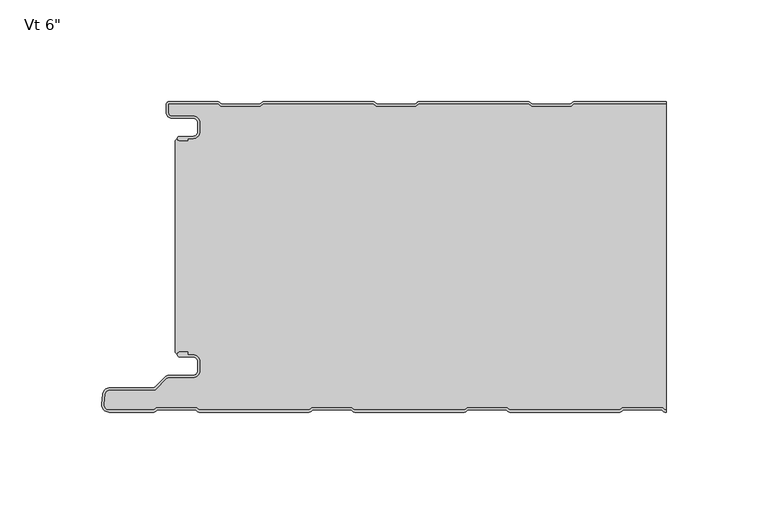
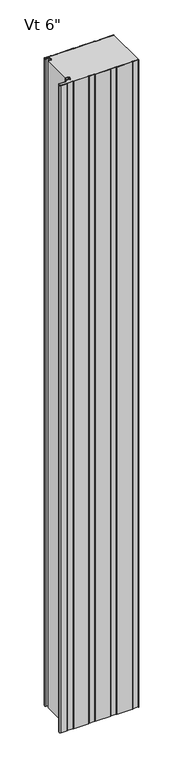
"""IFC4 building model written with IfcOpenShell, lengths in millimetres: plate geometry."""

from ifc_helpers import new_model, si_unit, point, frame, frame_2d, origin, origin_with_axes, place, context, project, spatial, polyline, circle_curve, trimmed, segment, composite_curve, outline, extrude, source, transform, mapped, element, save
from ifc_brep_helpers import plane_surface, cylinder_surface, revolved_surface, advanced_brep


def plate_e210ae97(model_context):
    return source(origin(), model_context, "Body", "SolidModel", [
        advanced_brep(
        [(-118.368691, -17.0015034, 2400.0), (-119.3686883, -18.0015065, 2400.0), (-118.368691, -19.0014978, 2400.0), (-114.3684874, -19.0014979, 2400.0), (-114.3684874, -18.0015034, 2400.0), (-111.6762776, -18.0015034, 2400.0), (-108.3762819, -14.7015077, 2400.0), (-108.3762819, -10.3015164, 2400.0), (-111.6762774, -7.001521, 2400.0), (-122.0962563, -7.001521, 2400.0), (-123.8662505, -5.2315268, 2400.0), (-123.8662505, -0.9999791, 2400.0), (-99.3659738, -0.9999791, 2400.0), (-97.9803312, -2.2002182, 2400.0), (-78.6051649, -2.2002182, 2400.0), (-77.219532, -0.9999874, 2400.0), (-23.1661166, -0.9999874, 2400.0), (-21.7804836, -2.2002182, 2400.0), (-2.4053173, -2.2002182, 2400.0), (-1.0196844, -0.9999874, 2400.0), (53.033731, -0.9999874, 2400.0), (54.419364, -2.2002182, 2400.0), (73.7945303, -2.2002182, 2400.0), (75.1801632, -0.9999874, 2400.0), (120.3999998, -0.9999874, 2400.0), (120.3999998, 1.26e-05, 2400.0), (75.3293144, 1.26e-05, 2400.0), (74.4126975, -0.3417759, 2400.0), (73.4216499, -1.2002182, 2400.0), (54.7922444, -1.2002182, 2400.0), (53.8011968, -0.3417759, 2400.0), (52.8845799, 1.26e-05, 2400.0), (-0.8705332, 1.26e-05, 2400.0), (-1.7871501, -0.3417759, 2400.0), (-2.7781977, -1.2002182, 2400.0), (-21.4076032, -1.2002182, 2400.0), (-22.3986508, -0.3417759, 2400.0), (-23.3152677, 1.26e-05, 2400.0), (-77.0703808, 1.26e-05, 2400.0), (-77.9869977, -0.3417759, 2400.0), (-78.9780453, -1.2002182, 2400.0), (-97.6074508, -1.2002182, 2400.0), (-98.5984984, -0.3417759, 2400.0), (-99.5152067, 1.26e-05, 2400.0), (-123.4662543, 2.09e-05, 2400.0), (-124.8662505, -1.3999752, 2400.0), (-124.8662505, -5.2315268, 2400.0), (-122.0962563, -8.001521, 2400.0), (-111.6762774, -8.001521, 2400.0), (-109.3762819, -10.3015164, 2400.0), (-109.3762819, -14.7015077, 2400.0), (-111.6762776, -17.0015034, 2400.0), (-118.368691, -17.0015034, 0.0), (-111.6762776, -17.0015034, 0.0), (-109.3762819, -14.7015077, 0.0), (-109.3762819, -10.3015164, 0.0), (-111.6762774, -8.001521, 0.0), (-122.0962563, -8.001521, 0.0), (-124.8662505, -5.2315268, 0.0), (-124.8662505, -1.3999752, 0.0), (-123.4662543, 2.09e-05, 0.0), (-99.5151153, 2.09e-05, 0.0), (-98.5984984, -0.3417759, 0.0), (-97.6074508, -1.2002182, 0.0), (-78.9780453, -1.2002182, 0.0), (-77.9869977, -0.3417759, 0.0), (-77.0703808, 1.26e-05, 0.0), (-23.3152677, 1.26e-05, 0.0), (-22.3986508, -0.3417759, 0.0), (-21.4076032, -1.2002182, 0.0), (-2.7781977, -1.2002182, 0.0), (-1.7871501, -0.3417759, 0.0), (-0.8705332, 1.26e-05, 0.0), (52.8845799, 1.26e-05, 0.0), (53.8011968, -0.3417759, 0.0), (54.7922444, -1.2002182, 0.0), (73.4216499, -1.2002182, 0.0), (74.4126975, -0.3417759, 0.0), (75.3293144, 1.26e-05, 0.0), (120.3999998, 1.26e-05, 0.0), (120.3999998, -0.9999874, 0.0), (75.1801632, -0.9999874, 0.0), (73.7945303, -2.2002182, 0.0), (54.419364, -2.2002182, 0.0), (53.033731, -0.9999874, 0.0), (-1.0196844, -0.9999874, 0.0), (-2.4053173, -2.2002182, 0.0), (-21.7804836, -2.2002182, 0.0), (-23.1661166, -0.9999874, 0.0), (-77.219532, -0.9999874, 0.0), (-78.6051649, -2.2002182, 0.0), (-97.9803312, -2.2002182, 0.0), (-99.3659738, -0.9999791, 0.0), (-123.8662505, -0.9999791, 0.0), (-123.8662505, -5.2315268, 0.0), (-122.0962563, -7.001521, 0.0), (-111.6762774, -7.001521, 0.0), (-108.3762819, -10.3015164, 0.0), (-108.3762819, -14.7015077, 0.0), (-111.6762776, -18.0015034, 0.0), (-114.3684874, -18.0015034, 0.0), (-114.3684874, -19.0014979, 0.0), (-118.368691, -19.0014979, 0.0), (-119.3686882, -18.0015065, 0.0)],
        [
            (0, 1, circle_curve(frame((-118.368691, -18.0015006, 2400.0), z_axis=(0.0, 0.0, 1.0), x_axis=(1.0, 0.0, 0.0)), 0.9999973)),
            (1, 2, circle_curve(frame((-118.368691, -18.0015006, 2400.0), z_axis=(0.0, 0.0, 1.0), x_axis=(1.0, 0.0, 0.0)), 0.9999972)),
            (2, 3),
            (3, 4),
            (4, 5),
            (5, 6, circle_curve(frame((-111.6762776, -14.7015077, 2400.0), z_axis=(0.0, 0.0, 1.0), x_axis=(1.0, 0.0, 0.0)), 3.2999957)),
            (6, 7),
            (7, 8, circle_curve(frame((-111.6762774, -10.3015164, 2400.0), z_axis=(0.0, 0.0, 1.0), x_axis=(1.0, 0.0, 0.0)), 3.2999955)),
            (8, 9),
            (9, 10, circle_curve(frame((-122.0962563, -5.2315268, 2400.0), z_axis=(0.0, 0.0, -1.0), x_axis=(1.0, 0.0, 0.0)), 1.7699942)),
            (10, 11),
            (11, 12),
            (12, 13),
            (13, 14),
            (14, 15),
            (15, 16),
            (16, 17),
            (17, 18),
            (18, 19),
            (19, 20),
            (20, 21),
            (21, 22),
            (22, 23),
            (23, 24),
            (24, 25),
            (25, 26),
            (26, 27, circle_curve(frame((75.3293144, -1.3999846, 2400.0), z_axis=(0.0, 0.0, 1.0), x_axis=(1.0, 0.0, 0.0)), 1.3999972)),
            (27, 28),
            (28, 29),
            (29, 30),
            (30, 31, circle_curve(frame((52.8845799, -1.3999846, 2400.0), z_axis=(0.0, 0.0, 1.0), x_axis=(1.0, 0.0, 0.0)), 1.3999972)),
            (31, 32),
            (32, 33, circle_curve(frame((-0.8705332, -1.3999846, 2400.0), z_axis=(0.0, 0.0, 1.0), x_axis=(1.0, 0.0, 0.0)), 1.3999972)),
            (33, 34),
            (34, 35),
            (35, 36),
            (36, 37, circle_curve(frame((-23.3152677, -1.3999846, 2400.0), z_axis=(0.0, 0.0, 1.0), x_axis=(1.0, 0.0, 0.0)), 1.3999972)),
            (37, 38),
            (38, 39, circle_curve(frame((-77.0703808, -1.3999846, 2400.0), z_axis=(0.0, 0.0, 1.0), x_axis=(1.0, 0.0, 0.0)), 1.3999972)),
            (39, 40),
            (40, 41),
            (41, 42),
            (42, 43, circle_curve(frame((-99.5151153, -1.3999846, 2400.0), z_axis=(0.0, 0.0, 1.0), x_axis=(1.0, 0.0, 0.0)), 1.3999972)),
            (43, 44),
            (44, 45, circle_curve(frame((-123.4662543, -1.3999752, 2400.0), z_axis=(0.0, 0.0, 1.0), x_axis=(1.0, 0.0, 0.0)), 1.3999962)),
            (45, 46),
            (46, 47, circle_curve(frame((-122.0962563, -5.2315268, 2400.0), z_axis=(0.0, 0.0, 1.0), x_axis=(1.0, 0.0, 0.0)), 2.7699942)),
            (47, 48),
            (48, 49, circle_curve(frame((-111.6762774, -10.3015164, 2400.0), z_axis=(0.0, 0.0, -1.0), x_axis=(1.0, 0.0, 0.0)), 2.2999955)),
            (49, 50),
            (50, 51, circle_curve(frame((-111.6762776, -14.7015077, 2400.0), z_axis=(0.0, 0.0, -1.0), x_axis=(1.0, 0.0, 0.0)), 2.2999957)),
            (51, 0),
            (52, 53),
            (53, 54, circle_curve(frame((-111.6762776, -14.7015077, 0.0), z_axis=(0.0, 0.0, 1.0), x_axis=(1.0, 0.0, 0.0)), 2.2999957)),
            (54, 55),
            (55, 56, circle_curve(frame((-111.6762774, -10.3015164, 0.0), z_axis=(0.0, 0.0, 1.0), x_axis=(1.0, 0.0, 0.0)), 2.2999955)),
            (56, 57),
            (57, 58, circle_curve(frame((-122.0962563, -5.2315268, 0.0), z_axis=(0.0, 0.0, -1.0), x_axis=(1.0, 0.0, 0.0)), 2.7699942)),
            (58, 59),
            (59, 60, circle_curve(frame((-123.4662543, -1.3999752, 0.0), z_axis=(0.0, 0.0, -1.0), x_axis=(1.0, 0.0, 0.0)), 1.3999962)),
            (60, 61),
            (61, 62, circle_curve(frame((-99.5151153, -1.3999846, 0.0), z_axis=(0.0, 0.0, -1.0), x_axis=(1.0, 0.0, 0.0)), 1.3999972)),
            (62, 63),
            (63, 64),
            (64, 65),
            (65, 66, circle_curve(frame((-77.0703808, -1.3999846, 0.0), z_axis=(0.0, 0.0, -1.0), x_axis=(1.0, 0.0, 0.0)), 1.3999972)),
            (66, 67),
            (67, 68, circle_curve(frame((-23.3152677, -1.3999846, 0.0), z_axis=(0.0, 0.0, -1.0), x_axis=(1.0, 0.0, 0.0)), 1.3999972)),
            (68, 69),
            (69, 70),
            (70, 71),
            (71, 72, circle_curve(frame((-0.8705332, -1.3999846, 0.0), z_axis=(0.0, 0.0, -1.0), x_axis=(1.0, 0.0, 0.0)), 1.3999972)),
            (72, 73),
            (73, 74, circle_curve(frame((52.8845799, -1.3999846, 0.0), z_axis=(0.0, 0.0, -1.0), x_axis=(1.0, 0.0, 0.0)), 1.3999972)),
            (74, 75),
            (75, 76),
            (76, 77),
            (77, 78, circle_curve(frame((75.3293144, -1.3999846, 0.0), z_axis=(0.0, 0.0, -1.0), x_axis=(1.0, 0.0, 0.0)), 1.3999972)),
            (78, 79),
            (79, 80),
            (80, 81),
            (81, 82),
            (82, 83),
            (83, 84),
            (84, 85),
            (85, 86),
            (86, 87),
            (87, 88),
            (88, 89),
            (89, 90),
            (90, 91),
            (91, 92),
            (92, 93),
            (93, 94),
            (94, 95, circle_curve(frame((-122.0962563, -5.2315268, 0.0), z_axis=(0.0, 0.0, 1.0), x_axis=(1.0, 0.0, 0.0)), 1.7699942)),
            (95, 96),
            (96, 97, circle_curve(frame((-111.6762774, -10.3015164, 0.0), z_axis=(0.0, 0.0, -1.0), x_axis=(1.0, 0.0, 0.0)), 3.2999955)),
            (97, 98),
            (98, 99, circle_curve(frame((-111.6762776, -14.7015077, 0.0), z_axis=(0.0, 0.0, -1.0), x_axis=(1.0, 0.0, 0.0)), 3.2999957)),
            (99, 100),
            (100, 101),
            (101, 102),
            (102, 103, circle_curve(frame((-118.368691, -18.0015006, 0.0), z_axis=(0.0, 0.0, -1.0), x_axis=(1.0, 0.0, 0.0)), 0.9999972)),
            (103, 52, circle_curve(frame((-118.368691, -18.0015006, 0.0), z_axis=(0.0, 0.0, -1.0), x_axis=(1.0, 0.0, 0.0)), 0.9999973)),
            (24, 80),
            (79, 25),
            (51, 53),
            (52, 0),
            (50, 54),
            (49, 55),
            (48, 56),
            (47, 57),
            (46, 58),
            (45, 59),
            (44, 60),
            (43, 61),
            (78, 26),
            (42, 62),
            (41, 63),
            (40, 64),
            (38, 66),
            (65, 39),
            (36, 68),
            (67, 37),
            (77, 27),
            (76, 28),
            (31, 73),
            (72, 32),
            (71, 33),
            (34, 70),
            (69, 35),
            (30, 74),
            (29, 75),
            (2, 102),
            (101, 3),
            (1, 103),
            (23, 81),
            (22, 82),
            (21, 83),
            (20, 84),
            (19, 85),
            (18, 86),
            (17, 87),
            (16, 88),
            (15, 89),
            (14, 90),
            (13, 91),
            (12, 92),
            (11, 93),
            (10, 94),
            (9, 95),
            (8, 96),
            (7, 97),
            (6, 98),
            (5, 99),
            (4, 100),
        ],
        [
            plane_surface(frame((184.4000002, 1.26e-05, 2400.0), z_axis=(0.0, 0.0, 1.0), x_axis=(0.0, 1.0, 0.0))),
            plane_surface(frame((184.4000002, 1.26e-05, 0.0), z_axis=(0.0, 0.0, -1.0), x_axis=(0.0, 1.0, 0.0))),
            plane_surface(frame((120.3999998, -162.3999874, 2400.0), z_axis=(1.0, 0.0, 0.0), x_axis=(0.0, 0.0, -1.0))),
            plane_surface(frame((-118.368691, -17.0015034, 2400.0), z_axis=(0.0, 1.0, 0.0), x_axis=(0.0, 0.0, -1.0))),
            revolved_surface(polyline([(-109.37628190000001, -14.7015077, 0.0), (-109.37628190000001, -14.7015077, 2400.0)]), (-111.6762776, -14.7015077, 2400.0), (0.0, 0.0, -1.0)),
            plane_surface(frame((-109.3762819, -14.7015077, 2400.0), z_axis=(-1.0, 0.0, 0.0), x_axis=(0.0, 0.0, -1.0))),
            revolved_surface(polyline([(-109.37628190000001, -10.3015164, 0.0), (-109.37628190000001, -10.3015164, 2400.0)]), (-111.6762774, -10.3015164, 2400.0), (0.0, 0.0, -1.0)),
            plane_surface(frame((-111.6762774, -8.001521, 2400.0), z_axis=(0.0, -1.0, 0.0), x_axis=(0.0, 0.0, -1.0))),
            cylinder_surface(frame((-122.0962563, -5.2315268, 2400.0), z_axis=(0.0, 0.0, 1.0), x_axis=(1.0, 0.0, 0.0)), 2.7699942),
            plane_surface(frame((-124.8662505, -5.2315268, 2400.0), z_axis=(-1.0, 0.0, 0.0), x_axis=(0.0, 0.0, -1.0))),
            cylinder_surface(frame((-123.4662543, -1.3999752, 2400.0), z_axis=(0.0, 0.0, 1.0), x_axis=(1.0, 0.0, 0.0)), 1.3999962),
            plane_surface(frame((-123.4662543, 2.09e-05, 2400.0), z_axis=(0.0, 1.0, 0.0), x_axis=(0.0, 0.0, -1.0))),
            plane_surface(frame((75.3293144, 1.26e-05, 2400.0), z_axis=(0.0, 1.0, 0.0), x_axis=(0.0, 0.0, -1.0))),
            cylinder_surface(frame((-99.5151153, -1.3999846, 2400.0), z_axis=(0.0, 0.0, 1.0), x_axis=(1.0, 0.0, 0.0)), 1.3999972),
            plane_surface(frame((-98.5984984, -0.3417759, 2400.0), z_axis=(0.6547276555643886, 0.755864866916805, 0.0), x_axis=(0.0, 0.0, -1.0))),
            plane_surface(frame((-88.2927481, -1.2002182, 2400.0), z_axis=(0.0, 1.0, 0.0), x_axis=(0.0, 0.0, -1.0))),
            cylinder_surface(frame((-77.0703808, -1.3999846, 2400.0), z_axis=(0.0, 0.0, 1.0), x_axis=(1.0, 0.0, 0.0)), 1.3999972),
            plane_surface(frame((-78.9780453, -1.2002182, 2400.0), z_axis=(-0.6547276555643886, 0.755864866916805, 0.0), x_axis=(0.0, 0.0, -1.0))),
            cylinder_surface(frame((-23.3152677, -1.3999846, 2400.0), z_axis=(0.0, 0.0, 1.0), x_axis=(1.0, 0.0, 0.0)), 1.3999972),
            cylinder_surface(frame((75.3293144, -1.3999846, 2400.0), z_axis=(0.0, 0.0, 1.0), x_axis=(1.0, 0.0, 0.0)), 1.3999972),
            plane_surface(frame((73.4216499, -1.2002182, 2400.0), z_axis=(-0.6547276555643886, 0.755864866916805, 0.0), x_axis=(0.0, 0.0, -1.0))),
            plane_surface(frame((-0.8705332, 1.26e-05, 2400.0), z_axis=(0.0, 1.0, 0.0), x_axis=(0.0, 0.0, -1.0))),
            cylinder_surface(frame((-0.8705332, -1.3999846, 2400.0), z_axis=(0.0, 0.0, 1.0), x_axis=(1.0, 0.0, 0.0)), 1.3999972),
            plane_surface(frame((-12.0929005, -1.2002182, 2400.0), z_axis=(0.0, 1.0, 0.0), x_axis=(0.0, 0.0, -1.0))),
            plane_surface(frame((-22.3986508, -0.3417759, 2400.0), z_axis=(0.6547276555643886, 0.755864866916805, 0.0), x_axis=(0.0, 0.0, -1.0))),
            plane_surface(frame((-2.7781977, -1.2002182, 2400.0), z_axis=(-0.6547276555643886, 0.755864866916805, 0.0), x_axis=(0.0, 0.0, -1.0))),
            plane_surface(frame((-77.0703808, 1.26e-05, 2400.0), z_axis=(0.0, 1.0, 0.0), x_axis=(0.0, 0.0, -1.0))),
            cylinder_surface(frame((52.8845799, -1.3999846, 2400.0), z_axis=(0.0, 0.0, 1.0), x_axis=(1.0, 0.0, 0.0)), 1.3999972),
            plane_surface(frame((53.8011968, -0.3417759, 2400.0), z_axis=(0.6547276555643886, 0.755864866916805, 0.0), x_axis=(0.0, 0.0, -1.0))),
            plane_surface(frame((64.1069471, -1.2002182, 2400.0), z_axis=(0.0, 1.0, 0.0), x_axis=(0.0, 0.0, -1.0))),
            plane_surface(frame((-114.3684874, -19.0014979, 2400.0), z_axis=(0.0, -1.0, 0.0), x_axis=(0.0, 0.0, -1.0))),
            cylinder_surface(frame((-118.368691, -18.0015006, 2400.0), z_axis=(0.0, 0.0, 1.0), x_axis=(1.0, 0.0, 0.0)), 0.9999972),
            cylinder_surface(frame((-118.368691, -18.0015006, 2400.0), z_axis=(0.0, 0.0, 1.0), x_axis=(1.0, 0.0, 0.0)), 0.9999973),
            plane_surface(frame((129.2335786, -0.9999874, 2400.0), z_axis=(0.0, -1.0, 0.0), x_axis=(0.0, 0.0, -1.0))),
            plane_surface(frame((75.1801632, -0.9999874, 2400.0), z_axis=(0.6547276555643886, -0.755864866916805, 0.0), x_axis=(0.0, 0.0, -1.0))),
            plane_surface(frame((73.7945303, -2.2002182, 2400.0), z_axis=(0.0, -1.0, 0.0), x_axis=(0.0, 0.0, -1.0))),
            plane_surface(frame((54.419364, -2.2002182, 2400.0), z_axis=(-0.6547276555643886, -0.755864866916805, 0.0), x_axis=(0.0, 0.0, -1.0))),
            plane_surface(frame((53.033731, -0.9999874, 2400.0), z_axis=(0.0, -1.0, 0.0), x_axis=(0.0, 0.0, -1.0))),
            plane_surface(frame((-1.0196844, -0.9999874, 2400.0), z_axis=(0.6547276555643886, -0.755864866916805, 0.0), x_axis=(0.0, 0.0, -1.0))),
            plane_surface(frame((-2.4053173, -2.2002182, 2400.0), z_axis=(0.0, -1.0, 0.0), x_axis=(0.0, 0.0, -1.0))),
            plane_surface(frame((-21.7804836, -2.2002182, 2400.0), z_axis=(-0.6547276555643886, -0.755864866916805, 0.0), x_axis=(0.0, 0.0, -1.0))),
            plane_surface(frame((-23.1661166, -0.9999874, 2400.0), z_axis=(0.0, -1.0, 0.0), x_axis=(0.0, 0.0, -1.0))),
            plane_surface(frame((-77.219532, -0.9999874, 2400.0), z_axis=(0.6547276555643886, -0.755864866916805, 0.0), x_axis=(0.0, 0.0, -1.0))),
            plane_surface(frame((-78.6051649, -2.2002182, 2400.0), z_axis=(0.0, -1.0, 0.0), x_axis=(0.0, 0.0, -1.0))),
            plane_surface(frame((-97.9803312, -2.2002182, 2400.0), z_axis=(-0.6547276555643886, -0.755864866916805, 0.0), x_axis=(0.0, 0.0, -1.0))),
            plane_surface(frame((-99.3659738, -0.9999791, 2400.0), z_axis=(0.0, -1.0, 0.0), x_axis=(0.0, 0.0, -1.0))),
            plane_surface(frame((-123.8662505, -0.9999791, 2400.0), z_axis=(1.0, 0.0, 0.0), x_axis=(0.0, 0.0, -1.0))),
            revolved_surface(polyline([(-120.3262621, -5.2315268, 0.0), (-120.3262621, -5.2315268, 2400.0)]), (-122.0962563, -5.2315268, 2400.0), (0.0, 0.0, -1.0)),
            plane_surface(frame((-122.0962563, -7.001521, 2400.0), z_axis=(0.0, 1.0, 0.0), x_axis=(0.0, 0.0, -1.0))),
            cylinder_surface(frame((-111.6762774, -10.3015164, 2400.0), z_axis=(0.0, 0.0, 1.0), x_axis=(1.0, 0.0, 0.0)), 3.2999955),
            plane_surface(frame((-108.3762819, -10.3015164, 2400.0), z_axis=(1.0, 0.0, 0.0), x_axis=(0.0, 0.0, -1.0))),
            cylinder_surface(frame((-111.6762776, -14.7015077, 2400.0), z_axis=(0.0, 0.0, 1.0), x_axis=(1.0, 0.0, 0.0)), 3.2999957),
            plane_surface(frame((-111.6762776, -18.0015034, 2400.0), z_axis=(0.0, -1.0, 0.0), x_axis=(0.0, 0.0, -1.0))),
            plane_surface(frame((-114.3684874, -18.0015034, 2400.0), z_axis=(1.0, 0.0, 0.0), x_axis=(0.0, 0.0, -1.0))),
        ],
        [
            (0, [[1, 2, 3, 4, 5, 6, 7, 8, 9, 10, 11, 12, 13, 14, 15, 16, 17, 18, 19, 20, 21, 22, 23, 24, 25, 26, 27, 28, 29, 30, 31, 32, 33, 34, 35, 36, 37, 38, 39, 40, 41, 42, 43, 44, 45, 46, 47, 48, 49, 50, 51, 52]]),
            (1, [[53, 54, 55, 56, 57, 58, 59, 60, 61, 62, 63, 64, 65, 66, 67, 68, 69, 70, 71, 72, 73, 74, 75, 76, 77, 78, 79, 80, 81, 82, 83, 84, 85, 86, 87, 88, 89, 90, 91, 92, 93, 94, 95, 96, 97, 98, 99, 100, 101, 102, 103, 104]]),
            (2, [[105, -80, 106, -25]]),
            (3, [[107, -53, 108, -52]]),
            (4, [[109, -54, -107, -51]]),
            (5, [[110, -55, -109, -50]]),
            (6, [[111, -56, -110, -49]]),
            (7, [[112, -57, -111, -48]]),
            (8, [[113, -58, -112, -47]]),
            (9, [[114, -59, -113, -46]]),
            (10, [[115, -60, -114, -45]]),
            (11, [[116, -61, -115, -44]]),
            (12, [[-26, -106, -79, 117]]),
            (13, [[118, -62, -116, -43]]),
            (14, [[119, -63, -118, -42]]),
            (15, [[120, -64, -119, -41]]),
            (16, [[121, -66, 122, -39]]),
            (17, [[-122, -65, -120, -40]]),
            (18, [[123, -68, 124, -37]]),
            (19, [[-117, -78, 125, -27]]),
            (20, [[-125, -77, 126, -28]]),
            (21, [[127, -73, 128, -32]]),
            (22, [[-128, -72, 129, -33]]),
            (23, [[130, -70, 131, -35]]),
            (24, [[-131, -69, -123, -36]]),
            (25, [[-129, -71, -130, -34]]),
            (26, [[-124, -67, -121, -38]]),
            (27, [[132, -74, -127, -31]]),
            (28, [[133, -75, -132, -30]]),
            (29, [[-126, -76, -133, -29]]),
            (30, [[134, -102, 135, -3]]),
            (31, [[136, -103, -134, -2]]),
            (32, [[-108, -104, -136, -1]]),
            (33, [[-81, -105, -24, 137]]),
            (34, [[138, -82, -137, -23]]),
            (35, [[139, -83, -138, -22]]),
            (36, [[140, -84, -139, -21]]),
            (37, [[141, -85, -140, -20]]),
            (38, [[142, -86, -141, -19]]),
            (39, [[143, -87, -142, -18]]),
            (40, [[144, -88, -143, -17]]),
            (41, [[145, -89, -144, -16]]),
            (42, [[146, -90, -145, -15]]),
            (43, [[147, -91, -146, -14]]),
            (44, [[148, -92, -147, -13]]),
            (45, [[149, -93, -148, -12]]),
            (46, [[150, -94, -149, -11]]),
            (47, [[151, -95, -150, -10]]),
            (48, [[152, -96, -151, -9]]),
            (49, [[153, -97, -152, -8]]),
            (50, [[154, -98, -153, -7]]),
            (51, [[155, -99, -154, -6]]),
            (52, [[156, -100, -155, -5]]),
            (53, [[-135, -101, -156, -4]]),
        ],
    ),
        extrude(outline(composite_curve([segment(polyline([(-131.0415932, -152.3997253), (-152.8521175, -152.3997253)]), True, "CONTINUOUS"), segment(trimmed(circle_curve(frame_2d((-152.8521175, -148.829486)), 3.5702393), [point((-152.8521175, -152.3997253))], [point((-156.4087619, -148.5182156))], False, "CARTESIAN"), True, "CONTINUOUS"), segment(polyline([(-156.4087619, -148.5182156), (-155.9690674, -143.494169)]), True, "CONTINUOUS"), segment(trimmed(circle_curve(frame_2d((-152.3198391, -144.1049701)), 3.6999926), [point((-155.9690674, -143.494169))], [point((-152.3198391, -140.4049775))], False, "CARTESIAN"), True, "CONTINUOUS"), segment(polyline([(-152.3198391, -140.4049775), (-131.1773995, -140.4049775)]), True, "CONTINUOUS"), segment(trimmed(circle_curve(frame_2d((-131.1773995, -139.1049801)), 1.2999974), [point((-131.1773995, -140.4049775))], [point((-130.2581626, -140.0242171))], True, "CARTESIAN"), True, "CONTINUOUS"), segment(polyline([(-130.2581626, -140.0242171), (-125.4297451, -135.1957996)]), True, "CONTINUOUS"), segment(trimmed(circle_curve(frame_2d((-123.5205606, -137.1049841)), 2.6999946), [point((-125.4297451, -135.1957996))], [point((-123.5205606, -134.4049895))], False, "CARTESIAN"), True, "CONTINUOUS"), segment(polyline([(-123.5205606, -134.4049895), (-111.7096715, -134.4049895)]), True, "CONTINUOUS"), segment(trimmed(circle_curve(frame_2d((-111.7096715, -132.0549942)), 2.3499953), [point((-111.7096715, -134.4049895))], [point((-109.3596762, -132.0549942))], True, "CARTESIAN"), True, "CONTINUOUS"), segment(polyline([(-109.3596762, -132.0549942), (-109.3596762, -127.655003)]), True, "CONTINUOUS"), segment(trimmed(circle_curve(frame_2d((-111.7096715, -127.655003)), 2.3499953), [point((-109.3596762, -127.655003))], [point((-111.7096715, -125.3050077))], True, "CARTESIAN"), True, "CONTINUOUS"), segment(polyline([(-111.7096715, -125.3050077), (-118.2289777, -125.3050077)]), True, "CONTINUOUS"), segment(trimmed(circle_curve(frame_2d((-118.1686906, -124.1065254)), 1.1999976), [point((-118.2289777, -125.3050077))], [point((-119.3683, -124.0760035))], False, "CARTESIAN"), True, "CONTINUOUS"), segment(trimmed(circle_curve(frame_2d((-118.1686906, -124.1065254)), 1.1999976), [point((-119.3683, -124.0760035))], [point((-118.167176, -122.9065288))], False, "CARTESIAN"), True, "CONTINUOUS"), segment(polyline([(-118.167176, -122.9065288), (-114.4087826, -122.9065288), (-114.4087826, -124.3050077), (-111.7096715, -124.3050077)]), True, "CONTINUOUS"), segment(trimmed(circle_curve(frame_2d((-111.7096715, -127.655003)), 3.3499953), [point((-111.7096715, -124.3050077))], [point((-108.3596762, -127.655003))], False, "CARTESIAN"), True, "CONTINUOUS"), segment(polyline([(-108.3596762, -127.655003), (-108.3596762, -132.0549942)]), True, "CONTINUOUS"), segment(trimmed(circle_curve(frame_2d((-111.7096715, -132.0549942)), 3.3499953), [point((-108.3596762, -132.0549942))], [point((-111.7096715, -135.4049895))], False, "CARTESIAN"), True, "CONTINUOUS"), segment(polyline([(-111.7096715, -135.4049895), (-123.5205606, -135.4049895)]), True, "CONTINUOUS"), segment(trimmed(circle_curve(frame_2d((-123.5205606, -137.1049841)), 1.6999946), [point((-123.5205606, -135.4049895))], [point((-124.7226383, -135.9029064))], True, "CARTESIAN"), True, "CONTINUOUS"), segment(polyline([(-124.7226383, -135.9029064), (-130.2247094, -141.4049775), (-152.3198391, -141.4049775)]), True, "CONTINUOUS"), segment(trimmed(circle_curve(frame_2d((-152.3198391, -144.1049701)), 2.6999926), [point((-152.3198391, -141.4049775))], [point((-154.9765707, -143.6235795))], True, "CARTESIAN"), True, "CONTINUOUS"), segment(polyline([(-154.9765707, -143.6235795), (-155.4125697, -148.6054003)]), True, "CONTINUOUS"), segment(trimmed(circle_curve(frame_2d((-152.8521175, -148.829486)), 2.5702393), [point((-155.4125697, -148.6054003))], [point((-152.8521175, -151.3997253))], True, "CARTESIAN"), True, "CONTINUOUS"), segment(polyline([(-152.8521175, -151.3997253), (-130.879096, -151.3997253), (-129.6791275, -150.1997567), (-109.959715, -150.1997567), (-108.7594843, -151.3999874), (-54.6793525, -151.3999874), (-53.4791218, -150.1997567), (-33.7597093, -150.1997567), (-32.5594786, -151.3999874), (21.5206532, -151.3999874), (22.7208839, -150.1997567), (42.4402964, -150.1997567), (43.6405271, -151.3999874), (97.7206589, -151.3999874), (98.9208896, -150.1997567), (118.6403021, -150.1997567), (119.8405328, -151.3999874), (120.3999998, -151.3999874), (120.3999998, -152.3999874), (120.010284, -152.3999874)]), True, "CONTINUOUS"), segment(trimmed(circle_curve(frame_2d((120.0026306, -151.0000112)), 1.3999972), [point((120.010284, -152.3999874))], [point((118.9585798, -151.9327223))], False, "CARTESIAN"), True, "CONTINUOUS"), segment(polyline([(118.9585798, -151.9327223), (118.2256142, -151.1997567), (99.334945, -151.1997567), (98.6020004, -151.9327014)]), True, "CONTINUOUS"), segment(trimmed(circle_curve(frame_2d((97.5579496, -150.9999902)), 1.3999972), [point((98.6020004, -151.9327014))], [point((97.5579496, -152.3999874))], False, "CARTESIAN"), True, "CONTINUOUS"), segment(polyline([(97.5579496, -152.3999874), (43.8104364, -152.3999874)]), True, "CONTINUOUS"), segment(trimmed(circle_curve(frame_2d((43.802783, -151.0000112)), 1.3999972), [point((43.8104364, -152.3999874))], [point((42.7587322, -151.9327223))], False, "CARTESIAN"), True, "CONTINUOUS"), segment(polyline([(42.7587322, -151.9327223), (42.0257666, -151.1997567), (23.1350974, -151.1997567), (22.4021528, -151.9327014)]), True, "CONTINUOUS"), segment(trimmed(circle_curve(frame_2d((21.358102, -150.9999902)), 1.3999972), [point((22.4021528, -151.9327014))], [point((21.358102, -152.3999874))], False, "CARTESIAN"), True, "CONTINUOUS"), segment(polyline([(21.358102, -152.3999874), (-32.3894112, -152.3999874)]), True, "CONTINUOUS"), segment(trimmed(circle_curve(frame_2d((-32.3970646, -151.0000112)), 1.3999972), [point((-32.3894112, -152.3999874))], [point((-33.4411154, -151.9327223))], False, "CARTESIAN"), True, "CONTINUOUS"), segment(polyline([(-33.4411154, -151.9327223), (-34.174081, -151.1997567), (-53.0647502, -151.1997567), (-53.7976948, -151.9327014)]), True, "CONTINUOUS"), segment(trimmed(circle_curve(frame_2d((-54.8417456, -150.9999902)), 1.3999972), [point((-53.7976948, -151.9327014))], [point((-54.8417456, -152.3999874))], False, "CARTESIAN"), True, "CONTINUOUS"), segment(polyline([(-54.8417456, -152.3999874), (-108.5892588, -152.3999874)]), True, "CONTINUOUS"), segment(trimmed(circle_curve(frame_2d((-108.5969122, -151.0000112)), 1.3999972), [point((-108.5892588, -152.3999874))], [point((-109.640963, -151.9327223))], False, "CARTESIAN"), True, "CONTINUOUS"), segment(polyline([(-109.640963, -151.9327223), (-110.3739286, -151.1997567), (-129.2649139, -151.1997567), (-129.9976402, -151.932483)]), True, "CONTINUOUS"), segment(trimmed(circle_curve(frame_2d((-131.0415932, -150.9998592)), 1.3998661), [point((-129.9976402, -151.932483))], [point((-131.0415932, -152.3997253))], False, "CARTESIAN"), True, "CONTINUOUS")], self_intersect=False)), origin_with_axes(), (0.0, 0.0, 1.0), 2400.0),
        extrude(outline(composite_curve([segment(polyline([(-119.3683, -124.0760035), (-120.3999998, -123.0443036), (-120.3999998, -19.0328183), (-119.3686882, -18.0015066)]), True, "CONTINUOUS"), segment(trimmed(circle_curve(frame_2d((-118.368691, -18.0015007)), 0.9999972), [point((-119.3686882, -18.0015066))], [point((-118.368691, -19.0014979))], True, "CARTESIAN"), True, "CONTINUOUS"), segment(polyline([(-118.368691, -19.0014979), (-114.3684873, -19.0014979), (-114.3684873, -18.0015034), (-111.6762775, -18.0015034)]), True, "CONTINUOUS"), segment(trimmed(circle_curve(frame_2d((-111.6762775, -14.7015077)), 3.2999957), [point((-111.6762775, -18.0015034))], [point((-108.3762818, -14.7015077))], True, "CARTESIAN"), True, "CONTINUOUS"), segment(polyline([(-108.3762818, -14.7015077), (-108.3762818, -10.3015164)]), True, "CONTINUOUS"), segment(trimmed(circle_curve(frame_2d((-111.6762777, -10.3015164)), 3.2999959), [point((-108.3762818, -10.3015164))], [point((-111.6762777, -7.0015206))], True, "CARTESIAN"), True, "CONTINUOUS"), segment(polyline([(-111.6762777, -7.0015206), (-122.0962562, -7.0015206)]), True, "CONTINUOUS"), segment(trimmed(circle_curve(frame_2d((-122.0962562, -5.2315264)), 1.7699942), [point((-122.0962562, -7.0015206))], [point((-123.8662504, -5.2315264))], False, "CARTESIAN"), True, "CONTINUOUS"), segment(polyline([(-123.8662504, -5.2315264), (-123.8662504, -0.9999791), (-99.3659738, -0.9999791), (-97.9803312, -2.2002182), (-78.6051649, -2.2002182), (-77.2195319, -0.9999874), (-23.1661165, -0.9999874), (-21.7804836, -2.2002182), (-2.4053173, -2.2002182), (-1.0196843, -0.9999874), (53.0337311, -0.9999874), (54.419364, -2.2002182), (73.7945303, -2.2002182), (75.1801633, -0.9999874), (120.3999998, -0.9999874), (120.3999998, -151.3999874), (119.8405328, -151.3999874), (118.6403021, -150.1997567), (98.9208896, -150.1997567), (97.7206589, -151.3999874), (43.6405271, -151.3999874), (42.4402964, -150.1997567), (22.7208839, -150.1997567), (21.5206532, -151.3999874), (-32.5594786, -151.3999874), (-33.7597093, -150.1997567), (-53.4791218, -150.1997567), (-54.6793525, -151.3999874), (-108.7594843, -151.3999874), (-109.959715, -150.1997567), (-129.6791275, -150.1997567), (-130.879096, -151.3997253), (-152.8521175, -151.3997253)]), True, "CONTINUOUS"), segment(trimmed(circle_curve(frame_2d((-152.8521175, -148.829486)), 2.5702393), [point((-152.8521175, -151.3997253))], [point((-155.4125697, -148.6054003))], False, "CARTESIAN"), True, "CONTINUOUS"), segment(polyline([(-155.4125697, -148.6054003), (-154.9765707, -143.6235795)]), True, "CONTINUOUS"), segment(trimmed(circle_curve(frame_2d((-152.3198391, -144.1049701)), 2.6999926), [point((-154.9765707, -143.6235795))], [point((-152.3198391, -141.4049775))], False, "CARTESIAN"), True, "CONTINUOUS"), segment(polyline([(-152.3198391, -141.4049775), (-130.2247094, -141.4049775), (-124.7226383, -135.9029064)]), True, "CONTINUOUS"), segment(trimmed(circle_curve(frame_2d((-123.5205606, -137.1049841)), 1.6999946), [point((-124.7226383, -135.9029064))], [point((-123.5205606, -135.4049895))], False, "CARTESIAN"), True, "CONTINUOUS"), segment(polyline([(-123.5205606, -135.4049895), (-111.7096715, -135.4049895)]), True, "CONTINUOUS"), segment(trimmed(circle_curve(frame_2d((-111.7096715, -132.0549942)), 3.3499953), [point((-111.7096715, -135.4049895))], [point((-108.3596762, -132.0549942))], True, "CARTESIAN"), True, "CONTINUOUS"), segment(polyline([(-108.3596762, -132.0549942), (-108.3596762, -127.655003)]), True, "CONTINUOUS"), segment(trimmed(circle_curve(frame_2d((-111.7096715, -127.655003)), 3.3499953), [point((-108.3596762, -127.655003))], [point((-111.7096715, -124.3050077))], True, "CARTESIAN"), True, "CONTINUOUS"), segment(polyline([(-111.7096715, -124.3050077), (-114.4087826, -124.3050077), (-114.4087826, -122.9065288), (-118.167176, -122.9065288)]), True, "CONTINUOUS"), segment(trimmed(circle_curve(frame_2d((-118.1686906, -124.1065254)), 1.1999976), [point((-118.167176, -122.9065288))], [point((-119.3683, -124.0760035))], True, "CARTESIAN"), True, "CONTINUOUS")], self_intersect=False)), origin_with_axes(), (0.0, 0.0, 1.0), 2400.0),
    ])


if __name__ == "__main__":
    model = new_model("IFC4")
    model_context = context("Model", 3, world=origin())
    ifc_project = project(units=[si_unit("LENGTHUNIT", "METRE", prefix="MILLI")], contexts=[model_context])
    site = spatial("IfcSite", under=ifc_project)
    building = spatial("IfcBuilding", under=site)
    placement = place(None, origin())
    plate_shape = plate_e210ae97(model_context)
    element("IfcPlate", 1, ObjectType="KIP-24-Karrier-KP-R19-CP-Vt-SL3-8in_SL : Vt 6\"", at=placement, inside=building, context=model_context, shape_type="MappedRepresentation", body=[
        mapped(plate_shape, transform((0.0, 0.0, 0.0), x_axis=(1.0, 0.0, 0.0), y_axis=(0.0, 1.0, 0.0), z_axis=(0.0, 0.0, 1.0))),
    ])
    save(model, "model.ifc")
